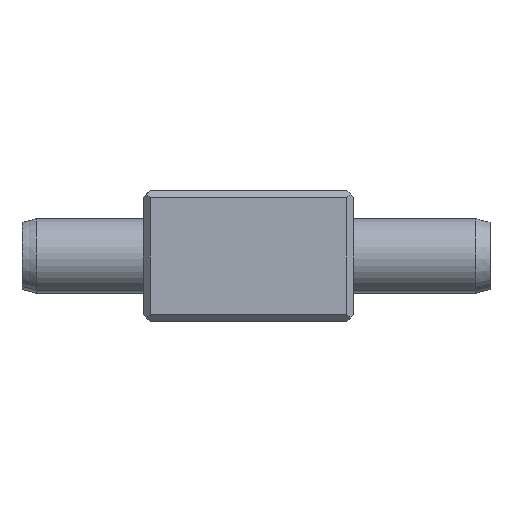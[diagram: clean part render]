
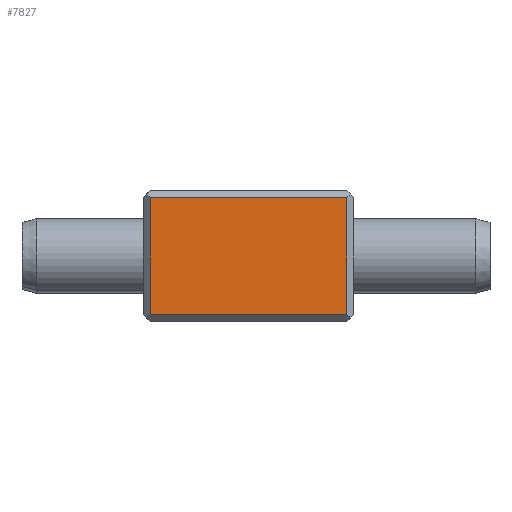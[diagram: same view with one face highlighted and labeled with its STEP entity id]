
A CAD part, front view. The second image highlights one B-rep face of the part: STEP entity #7827.
In plain terms, the highlighted planar face has unit normal (0, -1, 0).
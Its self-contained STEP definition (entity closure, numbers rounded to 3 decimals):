
#214 = ORIENTED_EDGE ( 'NONE', *, *, #7259, .T. ) ;
#249 = ORIENTED_EDGE ( 'NONE', *, *, #7225, .T. ) ;
#286 = ORIENTED_EDGE ( 'NONE', *, *, #7244, .T. ) ;
#289 = ORIENTED_EDGE ( 'NONE', *, *, #7170, .T. ) ;
#669 = EDGE_LOOP ( 'NONE', ( #249, #289, #214, #286 ) ) ;
#1302 = DIRECTION ( 'NONE',  ( -1., 0., 0. ) ) ;
#1310 = FACE_OUTER_BOUND ( 'NONE', #669, .T. ) ;
#1319 = DIRECTION ( 'NONE',  ( 0., 1., 0. ) ) ;
#1322 = CARTESIAN_POINT ( 'NONE',  ( -22.5, -22., 14. ) ) ;
#1327 = PLANE ( 'NONE',  #5453 ) ;
#2549 = LINE ( 'NONE', #2551, #4955 ) ;
#2551 = CARTESIAN_POINT ( 'NONE',  ( -22.5, -22., -12.5 ) ) ;
#2552 = DIRECTION ( 'NONE',  ( 1., 0., 0. ) ) ;
#3061 = LINE ( 'NONE', #3064, #4837 ) ;
#3064 = CARTESIAN_POINT ( 'NONE',  ( -21., -22., 14. ) ) ;
#3066 = DIRECTION ( 'NONE',  ( 0., 0., -1. ) ) ;
#4837 = VECTOR ( 'NONE', #3066, 1000. ) ;
#4881 = VECTOR ( 'NONE', #6328, 1000. ) ;
#4884 = VECTOR ( 'NONE', #6418, 1000. ) ;
#4955 = VECTOR ( 'NONE', #2552, 1000. ) ;
#5453 = AXIS2_PLACEMENT_3D ( 'NONE', #1322, #1319, #1302 ) ;
#6294 = LINE ( 'NONE', #6309, #4881 ) ;
#6309 = CARTESIAN_POINT ( 'NONE',  ( 21., -22., 14. ) ) ;
#6328 = DIRECTION ( 'NONE',  ( 0., 0., 1. ) ) ;
#6405 = CARTESIAN_POINT ( 'NONE',  ( -22.5, -22., 12.5 ) ) ;
#6418 = DIRECTION ( 'NONE',  ( -1., 0., 0. ) ) ;
#6429 = LINE ( 'NONE', #6405, #4884 ) ;
#6653 = CARTESIAN_POINT ( 'NONE',  ( 21., -22., 12.5 ) ) ;
#6659 = CARTESIAN_POINT ( 'NONE',  ( 21., -22., -12.5 ) ) ;
#6664 = CARTESIAN_POINT ( 'NONE',  ( -21., -22., 12.5 ) ) ;
#6675 = CARTESIAN_POINT ( 'NONE',  ( -21., -22., -12.5 ) ) ;
#6853 = VERTEX_POINT ( 'NONE', #6664 ) ;
#6863 = VERTEX_POINT ( 'NONE', #6653 ) ;
#6865 = VERTEX_POINT ( 'NONE', #6675 ) ;
#6882 = VERTEX_POINT ( 'NONE', #6659 ) ;
#7170 = EDGE_CURVE ( 'NONE', #6853, #6865, #3061, .T. ) ;
#7225 = EDGE_CURVE ( 'NONE', #6863, #6853, #6429, .T. ) ;
#7244 = EDGE_CURVE ( 'NONE', #6882, #6863, #6294, .T. ) ;
#7259 = EDGE_CURVE ( 'NONE', #6865, #6882, #2549, .T. ) ;
#7827 = ADVANCED_FACE ( 'NONE', ( #1310 ), #1327, .F. ) ;
